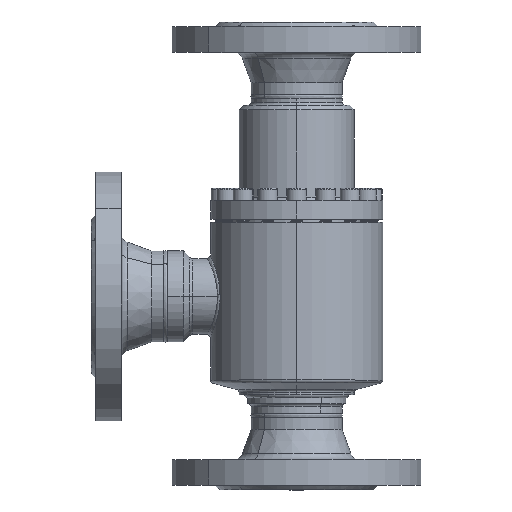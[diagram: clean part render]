
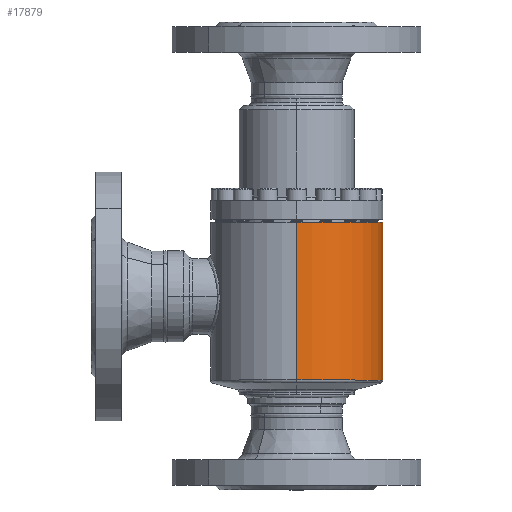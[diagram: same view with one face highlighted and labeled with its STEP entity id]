
A CAD part, top view. The second image highlights one B-rep face of the part: STEP entity #17879.
In plain terms, the highlighted cylindrical face has radius 57 mm (diameter 114 mm), a partial arc.
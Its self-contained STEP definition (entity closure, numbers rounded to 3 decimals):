
#16919 = CIRCLE ( 'NONE', #16920, 57. ) ;
#16920 = AXIS2_PLACEMENT_3D ( 'NONE', #16921, #16922, #16923 ) ;
#16921 = CARTESIAN_POINT ( 'NONE',  ( 0., -23.847, 0. ) ) ;
#16922 = DIRECTION ( 'NONE',  ( 0., 1., 0. ) ) ;
#16923 = DIRECTION ( 'NONE',  ( 0., 0., 1. ) ) ;
#17193 = VERTEX_POINT ( 'NONE', #5607 ) ;
#910 = EDGE_CURVE ( 'NONE', #15900, #17193, #19535, .T. ) ;
#17879 = ADVANCED_FACE ( 'NONE', ( #7585 ), #7586, .T. ) ;
#1609 = ORIENTED_EDGE ( 'NONE', *, *, #910, .F. ) ;
#1916 = CARTESIAN_POINT ( 'NONE',  ( 0., 80.527, 57. ) ) ;
#2533 = VERTEX_POINT ( 'NONE', #20555 ) ;
#19141 = EDGE_CURVE ( 'NONE', #2533, #17193, #10582, .T. ) ;
#19458 = ORIENTED_EDGE ( 'NONE', *, *, #19141, .T. ) ;
#19535 = CIRCLE ( 'NONE', #19536, 57. ) ;
#19536 = AXIS2_PLACEMENT_3D ( 'NONE', #19537, #19538, #19539 ) ;
#19537 = CARTESIAN_POINT ( 'NONE',  ( 0., 80.527, 0. ) ) ;
#19538 = DIRECTION ( 'NONE',  ( 0., 1., 0. ) ) ;
#19539 = DIRECTION ( 'NONE',  ( 0., 0., 1. ) ) ;
#20555 = CARTESIAN_POINT ( 'NONE',  ( 0., -23.847, -57. ) ) ;
#5070 = EDGE_LOOP ( 'NONE', ( #15585, #19458, #1609, #25936 ) ) ;
#5607 = CARTESIAN_POINT ( 'NONE',  ( 0., 80.527, -57. ) ) ;
#7585 = FACE_OUTER_BOUND ( 'NONE', #5070, .T. ) ;
#7586 = CYLINDRICAL_SURFACE ( 'NONE', #7587, 57. ) ;
#7587 = AXIS2_PLACEMENT_3D ( 'NONE', #7588, #7589, #7590 ) ;
#7588 = CARTESIAN_POINT ( 'NONE',  ( 0., 76.795, 0. ) ) ;
#7589 = DIRECTION ( 'NONE',  ( 0., 1., 0. ) ) ;
#7590 = DIRECTION ( 'NONE',  ( 0., 0., 1. ) ) ;
#25243 = EDGE_CURVE ( 'NONE', #11463, #15900, #15485, .T. ) ;
#25936 = ORIENTED_EDGE ( 'NONE', *, *, #25243, .F. ) ;
#10582 = LINE ( 'NONE', #10583, #10584 ) ;
#10583 = CARTESIAN_POINT ( 'NONE',  ( 0., 76.795, -57. ) ) ;
#10584 = VECTOR ( 'NONE', #10585, 1000. ) ;
#10585 = DIRECTION ( 'NONE',  ( 0., 1., 0. ) ) ;
#11463 = VERTEX_POINT ( 'NONE', #13586 ) ;
#13334 = EDGE_CURVE ( 'NONE', #11463, #2533, #16919, .T. ) ;
#13586 = CARTESIAN_POINT ( 'NONE',  ( 0., -23.847, 57. ) ) ;
#15485 = LINE ( 'NONE', #15486, #15487 ) ;
#15486 = CARTESIAN_POINT ( 'NONE',  ( 0., 76.795, 57. ) ) ;
#15487 = VECTOR ( 'NONE', #15488, 1000. ) ;
#15488 = DIRECTION ( 'NONE',  ( 0., 1., 0. ) ) ;
#15585 = ORIENTED_EDGE ( 'NONE', *, *, #13334, .T. ) ;
#15900 = VERTEX_POINT ( 'NONE', #1916 ) ;
